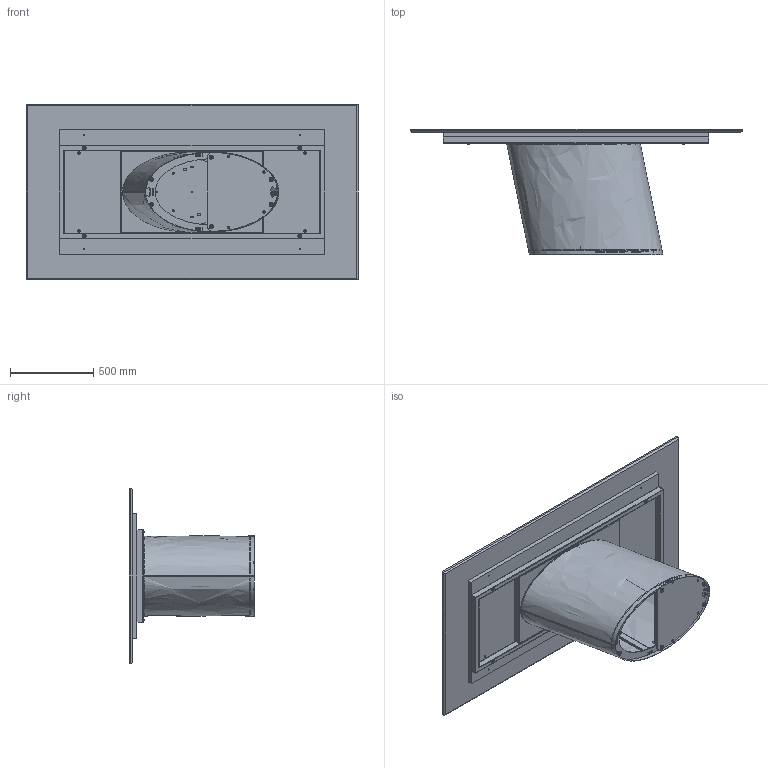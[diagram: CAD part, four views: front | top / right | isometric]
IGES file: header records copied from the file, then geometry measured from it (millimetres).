
Start section: SolidWorks IGES file using analytic representation for surfaces
Global section: file name: Y:\eforma\TECNICO\SOLIDWORKS\E-FORMA\1-TAVOLI\DORADO\02 parts\DO21M.IGS; native system: SolidWorks 2022; preprocessor: SolidWorks 2022; author: eforma.tech; date: 240806.150935; units: millimetre
Bounding box: 2000 x 757 x 1060 mm (x, y, z)
Volume: 84210187.2 mm3; surface area: 14101331.9 mm2
Topology: 46 solids, 46 shells, 1322 faces, 3210 edges, 1971 vertices
Faces by surface type: revolution 838, plane 458, bspline 26
